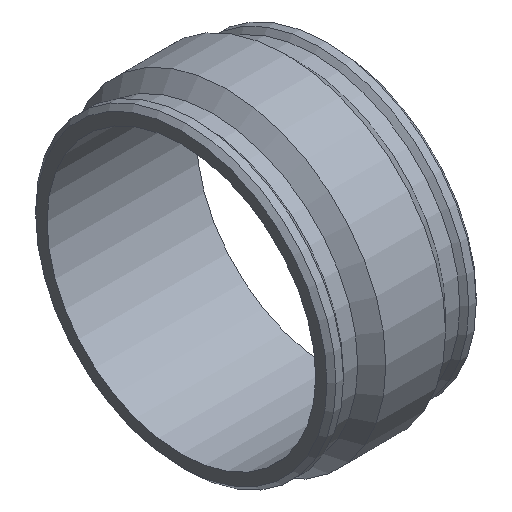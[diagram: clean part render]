
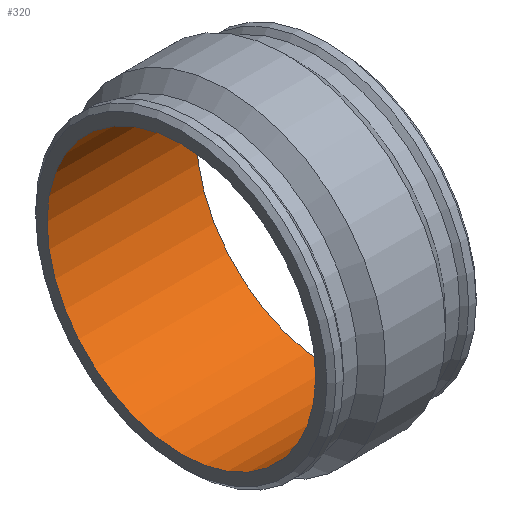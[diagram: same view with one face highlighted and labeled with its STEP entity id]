
A CAD part, isometric view. The second image highlights one B-rep face of the part: STEP entity #320.
In plain terms, the highlighted cylindrical face has radius 450 mm (diameter 900 mm), a full revolution.
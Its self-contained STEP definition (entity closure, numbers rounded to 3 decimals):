
#48=FACE_BOUND('',#142,.T.);
#62=CYLINDRICAL_SURFACE('',#376,450.);
#90=FACE_OUTER_BOUND('',#141,.T.);
#141=EDGE_LOOP('',(#283));
#142=EDGE_LOOP('',(#284));
#160=CIRCLE('',#357,450.);
#168=CIRCLE('',#375,450.);
#186=VERTEX_POINT('',#613);
#194=VERTEX_POINT('',#639);
#216=EDGE_CURVE('',#186,#186,#160,.T.);
#224=EDGE_CURVE('',#194,#194,#168,.T.);
#283=ORIENTED_EDGE('',*,*,#224,.T.);
#284=ORIENTED_EDGE('',*,*,#216,.F.);
#320=ADVANCED_FACE('',(#90,#48),#62,.F.);
#357=AXIS2_PLACEMENT_3D('',#614,#447,#448);
#375=AXIS2_PLACEMENT_3D('',#640,#483,#484);
#376=AXIS2_PLACEMENT_3D('',#641,#485,#486);
#447=DIRECTION('center_axis',(1.,0.,0.));
#448=DIRECTION('ref_axis',(0.,0.,-1.));
#483=DIRECTION('center_axis',(1.,0.,0.));
#484=DIRECTION('ref_axis',(0.,0.,-1.));
#485=DIRECTION('center_axis',(1.,0.,0.));
#486=DIRECTION('ref_axis',(0.,1.,0.));
#613=CARTESIAN_POINT('',(-250.,450.,0.));
#614=CARTESIAN_POINT('Origin',(-250.,0.,0.));
#639=CARTESIAN_POINT('',(250.,450.,0.));
#640=CARTESIAN_POINT('Origin',(250.,0.,0.));
#641=CARTESIAN_POINT('Origin',(-125.,0.,0.));
